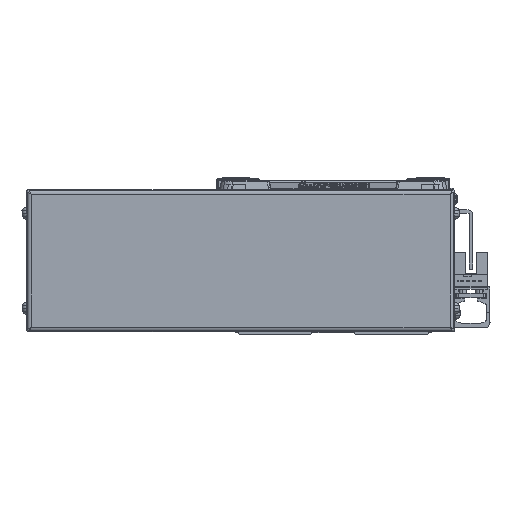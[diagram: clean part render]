
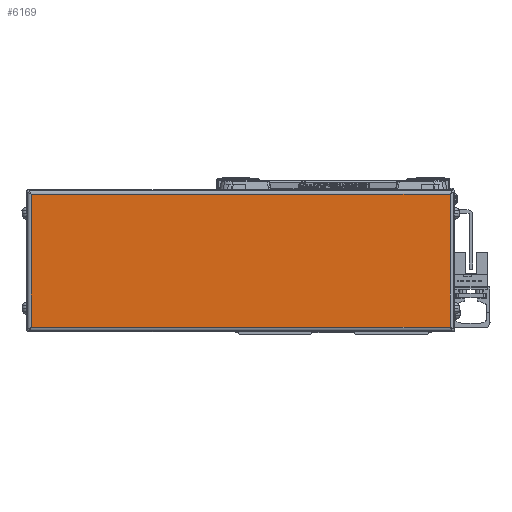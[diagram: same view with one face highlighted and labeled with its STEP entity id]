
A CAD part, left-side view. The second image highlights one B-rep face of the part: STEP entity #6169.
In plain terms, the highlighted planar face has unit normal (-1, 0, 0).
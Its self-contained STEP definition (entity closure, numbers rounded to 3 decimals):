
#6169=ADVANCED_FACE('',(#13170),#13171,.F.);
#13170=FACE_OUTER_BOUND('',#21647,.T.);
#13171=PLANE('',#21648);
#21647=EDGE_LOOP('',(#39424,#39425,#39426,#39427));
#21648=AXIS2_PLACEMENT_3D('',#39428,#39429,#39430);
#39424=ORIENTED_EDGE('',*,*,#52832,.T.);
#39425=ORIENTED_EDGE('',*,*,#48000,.T.);
#39426=ORIENTED_EDGE('',*,*,#54490,.T.);
#39427=ORIENTED_EDGE('',*,*,#50695,.T.);
#39428=CARTESIAN_POINT('',(-616.,39.,0.));
#39429=DIRECTION('',(1.0,0.,0.));
#39430=DIRECTION('',(0.,0.,1.0));
#48000=EDGE_CURVE('',#57429,#57427,#57430,.T.);
#50695=EDGE_CURVE('',#61965,#61963,#61966,.T.);
#52832=EDGE_CURVE('',#61963,#57429,#65134,.T.);
#54490=EDGE_CURVE('',#57427,#61965,#67311,.T.);
#57427=VERTEX_POINT('',#70877);
#57429=VERTEX_POINT('',#70879);
#57430=LINE('',#70880,#70881);
#61963=VERTEX_POINT('',#77142);
#61965=VERTEX_POINT('',#77144);
#61966=LINE('',#77145,#77146);
#65134=LINE('',#81629,#81630);
#67311=LINE('',#84648,#84649);
#70877=CARTESIAN_POINT('',(-616.0,127.2,-28.));
#70879=CARTESIAN_POINT('',(-616.,127.2,28.));
#70880=CARTESIAN_POINT('',(-616.0,127.2,0.));
#70881=VECTOR('',#88322,10.0);
#77142=CARTESIAN_POINT('',(-616.,-49.2,28.));
#77144=CARTESIAN_POINT('',(-616.,-49.2,-28.));
#77145=CARTESIAN_POINT('',(-616.,-49.2,0.));
#77146=VECTOR('',#92008,10.0);
#81629=CARTESIAN_POINT('',(-616.,39.,28.));
#81630=VECTOR('',#94902,10.0);
#84648=CARTESIAN_POINT('',(-616.,39.,-28.));
#84649=VECTOR('',#96830,10.0);
#88322=DIRECTION('',(0.,0.,-1.0));
#92008=DIRECTION('',(0.,0.,1.0));
#94902=DIRECTION('',(0.,1.0,0.));
#96830=DIRECTION('',(0.,-1.0,0.));
